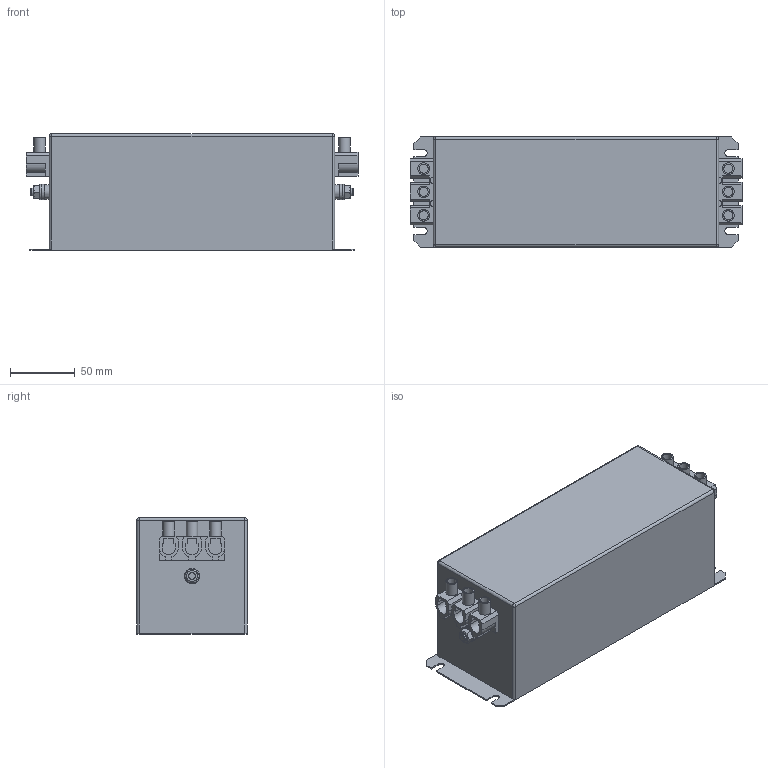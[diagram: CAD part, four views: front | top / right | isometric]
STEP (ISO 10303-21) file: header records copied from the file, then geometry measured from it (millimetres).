
FILE_DESCRIPTION((''),'2;1');
FILE_NAME('P:\Construction\Filter_Marketing\FN\FN3258\FN3258-55-52\FN3258-55-52.stp','2014-07-24T16:19:03',('erika.jenzer'),(''),'Autodesk Inventor 2013','Autodesk Inventor 2013','');
FILE_SCHEMA(('AUTOMOTIVE_DESIGN { 1 0 10303 214 1 1 1 1 }'));
Length unit declared in the file: millimetre
Products named in the file (1): FN3258-55-52
Bounding box: 256 x 85 x 90 mm (x, y, z)
Volume: 1702067.9 mm3; surface area: 112358.5 mm2
Topology: 1 solids, 1 shells, 242 faces, 620 edges, 406 vertices
Faces by surface type: plane 170, cylinder 60, cone 8, sphere 4
Full cylindrical faces by diameter (mm): 6 x4, 6.4 x2, 7 x6, 9 x6, 11.05 x2, 12 x2
Entity records: 7389 total; most frequent: CARTESIAN_POINT 1279, DIRECTION 1186, ORIENTED_EDGE 1172, EDGE_CURVE 586, VECTOR 424, LINE 424, VERTEX_POINT 402, AXIS2_PLACEMENT_3D 381
